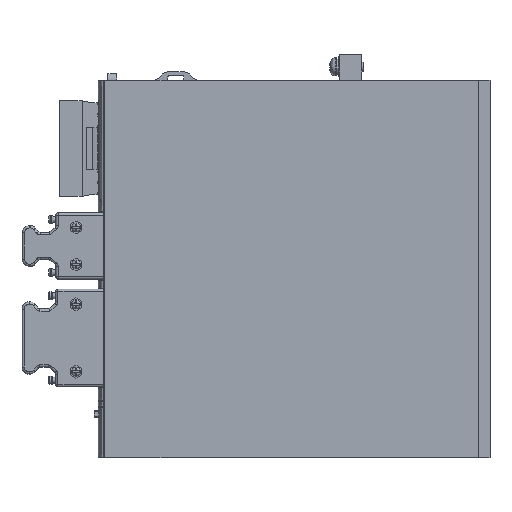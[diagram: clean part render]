
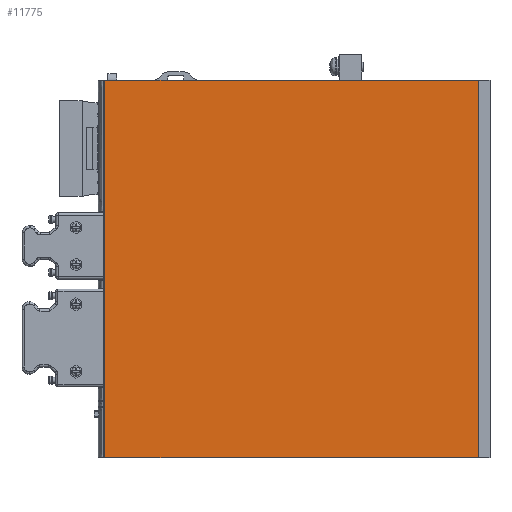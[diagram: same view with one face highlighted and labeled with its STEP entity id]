
A CAD part, left-side view. The second image highlights one B-rep face of the part: STEP entity #11775.
In plain terms, the highlighted planar face has unit normal (-1, 0, 0).
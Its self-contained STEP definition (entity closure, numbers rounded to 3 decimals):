
#1475=DIRECTION('',(0.,0.,1.));
#1476=VECTOR('',#1475,166.5);
#1477=CARTESIAN_POINT('',(-23.,-84.,5.));
#1478=LINE('',#1477,#1476);
#3037=DIRECTION('',(0.,-1.,0.));
#3038=VECTOR('',#3037,168.);
#3039=CARTESIAN_POINT('',(-23.,84.,5.));
#3040=LINE('',#3039,#3038);
#3041=DIRECTION('',(0.,0.,1.));
#3042=VECTOR('',#3041,166.5);
#3043=CARTESIAN_POINT('',(-23.,84.,5.));
#3044=LINE('',#3043,#3042);
#3045=DIRECTION('',(0.,-1.,0.));
#3046=VECTOR('',#3045,168.);
#3047=CARTESIAN_POINT('',(-23.,84.,171.5));
#3048=LINE('',#3047,#3046);
#6712=CARTESIAN_POINT('',(-23.,84.,171.5));
#6713=CARTESIAN_POINT('',(-23.,-84.,171.5));
#6714=VERTEX_POINT('',#6712);
#6715=VERTEX_POINT('',#6713);
#8080=CARTESIAN_POINT('',(-23.,84.,5.));
#8081=CARTESIAN_POINT('',(-23.,-84.,5.));
#8082=VERTEX_POINT('',#8080);
#8083=VERTEX_POINT('',#8081);
#11763=CARTESIAN_POINT('',(-23.,84.,0.));
#11764=DIRECTION('',(-1.,0.,0.));
#11765=DIRECTION('',(0.,-1.,0.));
#11766=AXIS2_PLACEMENT_3D('',#11763,#11764,#11765);
#11767=PLANE('',#11766);
#11768=ORIENTED_EDGE('',*,*,#11749,.F.);
#11769=ORIENTED_EDGE('',*,*,#10316,.T.);
#11771=ORIENTED_EDGE('',*,*,#11770,.T.);
#11772=ORIENTED_EDGE('',*,*,#9587,.F.);
#11773=EDGE_LOOP('',(#11768,#11769,#11771,#11772));
#11774=FACE_OUTER_BOUND('',#11773,.F.);
#11775=ADVANCED_FACE('',(#11774),#11767,.T.);
#9587=EDGE_CURVE('',#8083,#6715,#1478,.T.);
#10316=EDGE_CURVE('',#8082,#6714,#3044,.T.);
#11749=EDGE_CURVE('',#8082,#8083,#3040,.T.);
#11770=EDGE_CURVE('',#6714,#6715,#3048,.T.);
